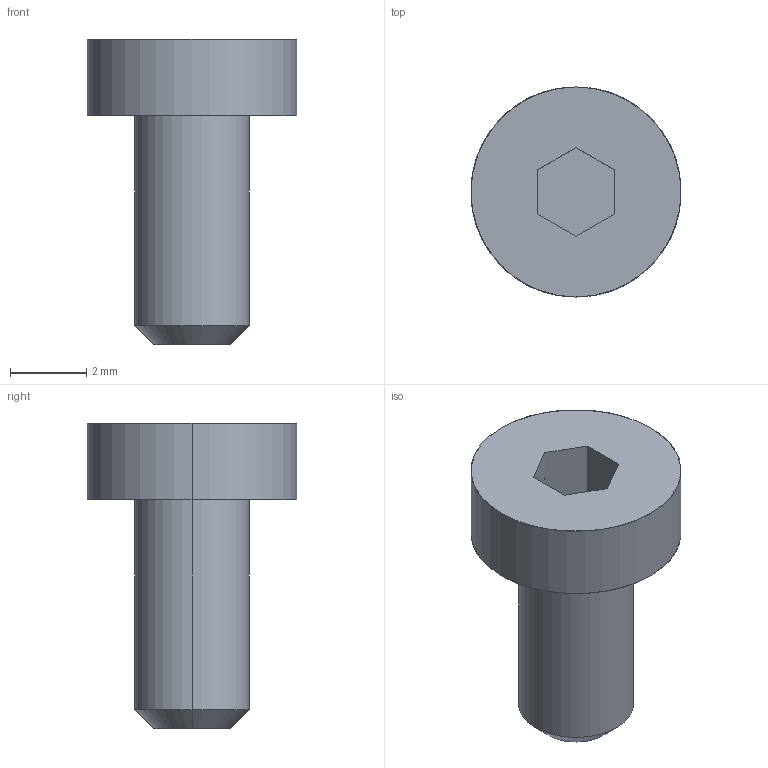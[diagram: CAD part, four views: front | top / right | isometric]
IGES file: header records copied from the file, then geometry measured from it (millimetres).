
Global section: file name: E:\UnigraphicsGraphicData\MISUMI_PRESS-PARTS\IGES\3d_cbs3-6_00449_r00.igs; native system: NX V5.0; preprocessor: UGS NX IGES V5.0; author: MISUMI; date: 20110105.160200; units: millimetre
Bounding box: 5.5 x 5.5 x 8 mm (x, y, z)
Surface area: 146.1 mm2 (no closed solid volume)
Topology: 0 solids, 0 shells, 16 faces, 92 edges, 92 vertices
Faces by surface type: bspline 16
